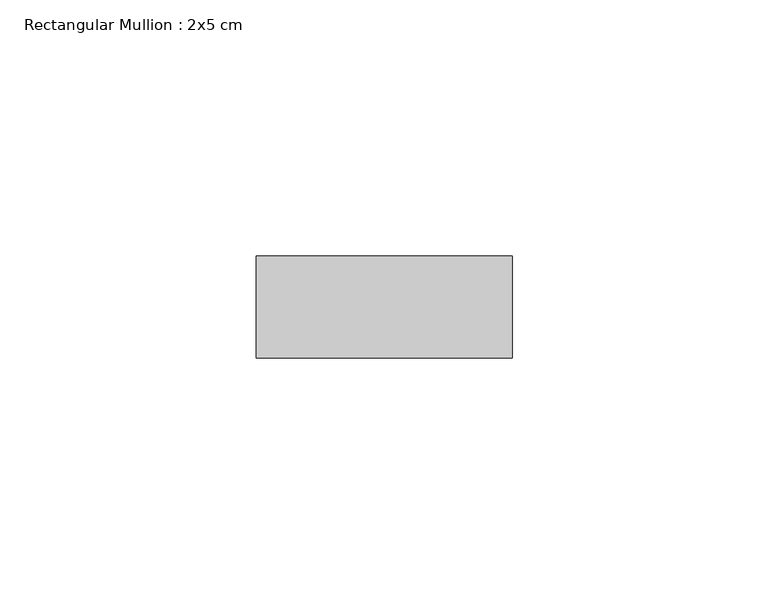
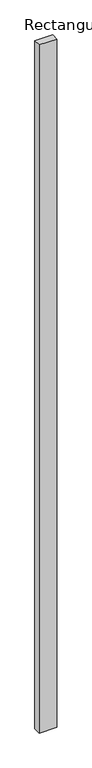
"""IFC4 building model written with IfcOpenShell, lengths in millimetres: member geometry, Rectangular Mullion : 2x5 cm."""

from ifc_helpers import new_model, si_unit, frame, origin, place, context, project, spatial, polyline, outline, extrude, source, transform, mapped, element, save


def rectangular_mullion_2x5_cm_3318212e(model_context):
    return source(origin(), model_context, "Body", "SweptSolid", [
        extrude(outline(polyline([(50.0, 20.0), (50.0, 0.0), (0.0, 0.0), (0.0, 20.0), (50.0, 20.0)])), frame((0.0, 0.0, -2028.3294293), z_axis=(0.0, 0.0, 1.0), x_axis=(1.0, 0.0, 0.0)), (0.0, 0.0, 1.0), 2028.3294293),
    ])


if __name__ == "__main__":
    model = new_model("IFC4")
    model_context = context("Model", 3, world=origin())
    ifc_project = project(units=[si_unit("LENGTHUNIT", "METRE", prefix="MILLI")], contexts=[model_context])
    site = spatial("IfcSite", under=ifc_project)
    building = spatial("IfcBuilding", under=site)
    placement = place(None, origin())
    rectangular_mullion_2x5_cm_shape = rectangular_mullion_2x5_cm_3318212e(model_context)
    element("IfcMember", 1, ObjectType="Rectangular Mullion : 2x5 cm", at=placement, inside=building, context=model_context, shape_type="MappedRepresentation", body=[
        mapped(rectangular_mullion_2x5_cm_shape, transform((0.0, 0.0, 0.0), x_axis=(1.0, 0.0, 0.0), y_axis=(0.0, 1.0, 0.0), z_axis=(0.0, 0.0, 1.0))),
    ])
    save(model, "model.ifc")
